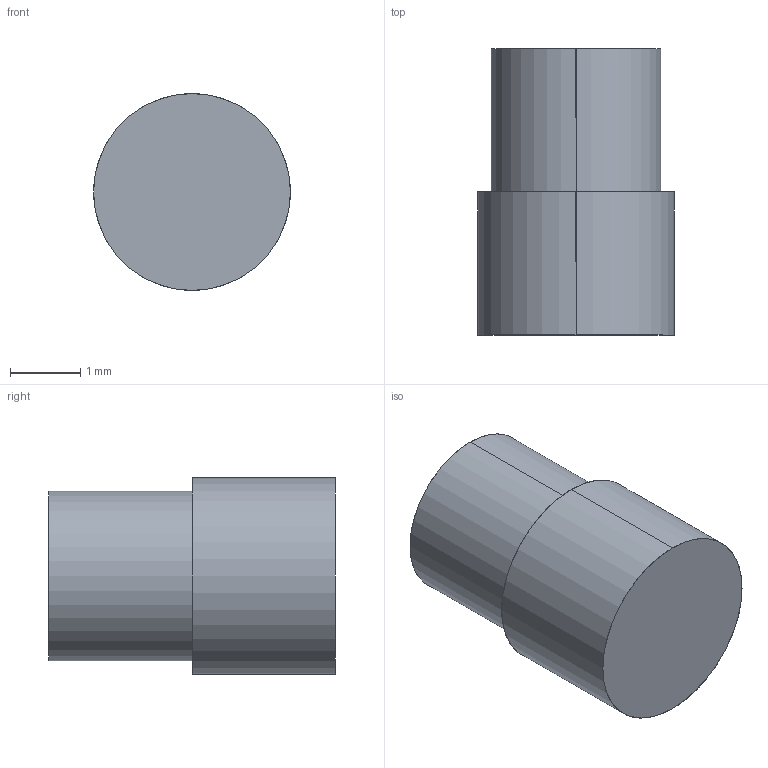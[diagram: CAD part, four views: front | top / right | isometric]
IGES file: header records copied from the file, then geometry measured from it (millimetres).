
Start section: SolidWorks IGES file using analytic representation for surfaces
Global section: file name: C:\Users\ALIENWARE\Documents\PowerBank\light peg 150.IGS; native system: SolidWorks 2014; preprocessor: SolidWorks 2014; author: ALIENWARE; date: 150203.114624; units: inch
Bounding box: 2.79 x 4.06 x 2.79 mm (x, y, z)
Surface area: 45.5 mm2 (no closed solid volume)
Topology: 0 solids, 0 shells, 7 faces, 144 edges, 144 vertices
Faces by surface type: revolution 4, bspline 3
